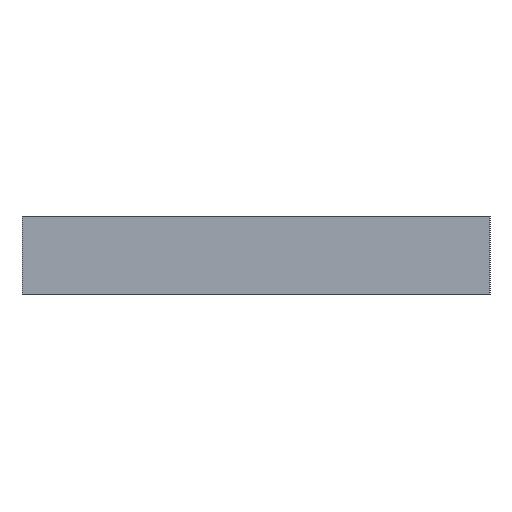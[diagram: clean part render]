
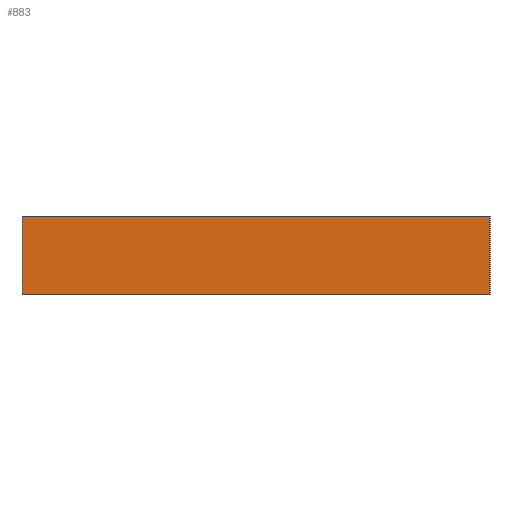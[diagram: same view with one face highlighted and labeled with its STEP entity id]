
A CAD part, left-side view. The second image highlights one B-rep face of the part: STEP entity #883.
In plain terms, the highlighted planar face has unit normal (-1, 0, 0).
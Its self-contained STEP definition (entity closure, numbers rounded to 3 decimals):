
#537 = DIRECTION ( 'NONE',  ( 0., -1., 0. ) ) ;
#538 = VECTOR ( 'NONE', #537, 1000. ) ;
#539 = CARTESIAN_POINT ( 'NONE',  ( 0., 2., -12. ) ) ;
#540 = LINE ( 'NONE', #539, #538 ) ;
#875 = ORIENTED_EDGE ( 'NONE', *, *, #882, .T. ) ;
#877 = ORIENTED_EDGE ( 'NONE', *, *, #885, .F. ) ;
#878 = VERTEX_POINT ( 'NONE', #1913 ) ;
#882 = EDGE_CURVE ( 'NONE', #878, #886, #1838, .T. ) ;
#883 = ADVANCED_FACE ( 'NONE', ( #2019 ), #2005, .F. ) ;
#884 = EDGE_CURVE ( 'NONE', #891, #886, #2000, .T. ) ;
#885 = EDGE_CURVE ( 'NONE', #890, #891, #1996, .T. ) ;
#886 = VERTEX_POINT ( 'NONE', #1992 ) ;
#887 = EDGE_LOOP ( 'NONE', ( #875, #888, #877, #892 ) ) ;
#888 = ORIENTED_EDGE ( 'NONE', *, *, #884, .F. ) ;
#890 = VERTEX_POINT ( 'NONE', #1990 ) ;
#891 = VERTEX_POINT ( 'NONE', #1989 ) ;
#892 = ORIENTED_EDGE ( 'NONE', *, *, #1754, .T. ) ;
#1754 = EDGE_CURVE ( 'NONE', #890, #878, #540, .T. ) ;
#1836 = DIRECTION ( 'NONE',  ( 0., 0., 1. ) ) ;
#1838 = LINE ( 'NONE', #1863, #1862 ) ;
#1862 = VECTOR ( 'NONE', #1836, 1000. ) ;
#1863 = CARTESIAN_POINT ( 'NONE',  ( 0., -2., -12. ) ) ;
#1913 = CARTESIAN_POINT ( 'NONE',  ( 0., -2., -12. ) ) ;
#1989 = CARTESIAN_POINT ( 'NONE',  ( 0., 2., 12. ) ) ;
#1990 = CARTESIAN_POINT ( 'NONE',  ( 0., 2., -12. ) ) ;
#1992 = CARTESIAN_POINT ( 'NONE',  ( 0., -2., 12. ) ) ;
#1993 = DIRECTION ( 'NONE',  ( 0., 0., 1. ) ) ;
#1994 = VECTOR ( 'NONE', #1993, 1000. ) ;
#1995 = CARTESIAN_POINT ( 'NONE',  ( 0., 2., -12. ) ) ;
#1996 = LINE ( 'NONE', #1995, #1994 ) ;
#1997 = DIRECTION ( 'NONE',  ( 0., -1., 0. ) ) ;
#1998 = VECTOR ( 'NONE', #1997, 1000. ) ;
#1999 = CARTESIAN_POINT ( 'NONE',  ( 0., 2., 12. ) ) ;
#2000 = LINE ( 'NONE', #1999, #1998 ) ;
#2001 = DIRECTION ( 'NONE',  ( 0., 0., -1. ) ) ;
#2002 = DIRECTION ( 'NONE',  ( 1., 0., 0. ) ) ;
#2003 = CARTESIAN_POINT ( 'NONE',  ( 0., 2., -12. ) ) ;
#2004 = AXIS2_PLACEMENT_3D ( 'NONE', #2003, #2002, #2001 ) ;
#2005 = PLANE ( 'NONE',  #2004 ) ;
#2019 = FACE_OUTER_BOUND ( 'NONE', #887, .T. ) ;
